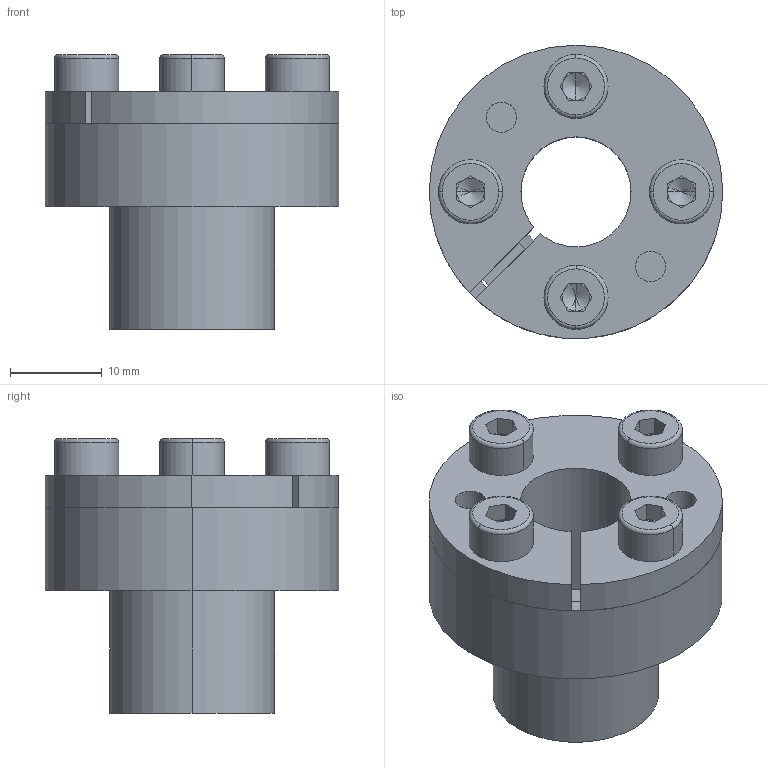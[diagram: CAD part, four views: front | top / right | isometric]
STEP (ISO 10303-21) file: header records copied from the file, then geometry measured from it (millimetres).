
FILE_DESCRIPTION (( 'STEP AP214' ), '1' );
FILE_NAME ('CONEX-B-12x18.step', '2013-04-04T12:41:08', ( 'Pc' ), ( '' ), 'SwSTEP 2.0', 'SolidWorks 2013', '' );
FILE_SCHEMA (( 'AUTOMOTIVE_DESIGN' ));
Length unit declared in the file: millimetre
Products named in the file (1): CONEX-B-12x18
Bounding box: 32 x 32 x 29.98 mm (x, y, z)
Volume: 9452.3 mm3; surface area: 10326 mm2
Topology: 7 solids, 7 shells, 174 faces, 414 edges, 250 vertices
Faces by surface type: plane 72, cylinder 52, torus 24, cone 22, bspline 4
Entity records: 7118 total; most frequent: CARTESIAN_POINT 965, DIRECTION 942, ORIENTED_EDGE 812, EDGE_CURVE 406, AXIS2_PLACEMENT_3D 379, VERTEX_POINT 250, CIRCLE 208, EDGE_LOOP 200
